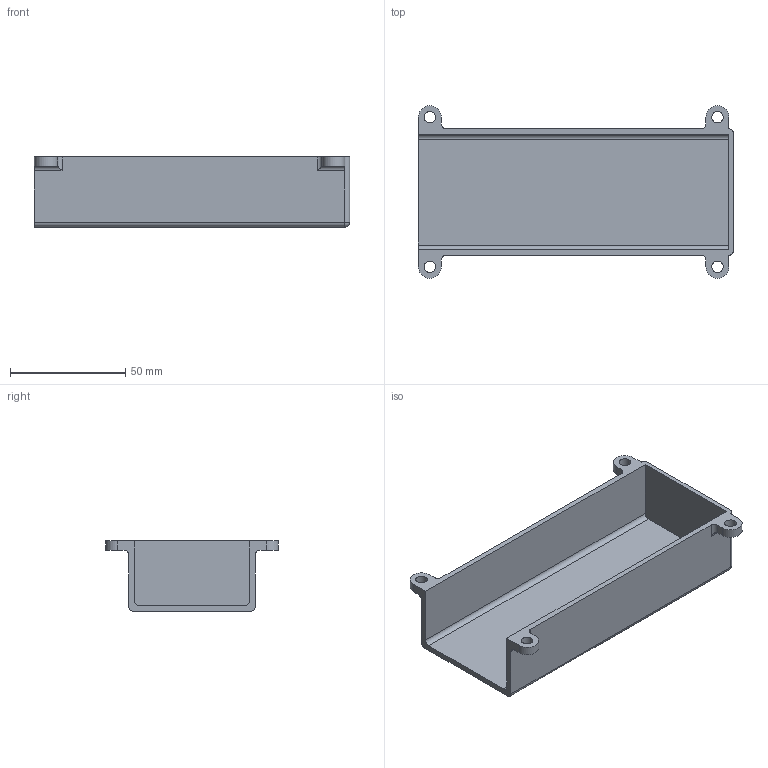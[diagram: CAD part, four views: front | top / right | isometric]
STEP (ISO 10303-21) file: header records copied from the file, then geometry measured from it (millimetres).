
FILE_DESCRIPTION(/* description */ ('STEP AP242 Edition 2','CAx-IF Rec.Pracs.---Representation and Presentation of Product Manufacturing Information (PMI)---4.0---2014-10-13','CAx-IF Rec.Pracs.---3D Tessellated Geometry---0.4---2014-09-14','2;1','CAx-IF Rec.Pracs.---User Defined Attributes---1.5---2016-08-15'),/* implementation_level */ '2;1');
FILE_NAME(/* name */ 'Part Studio 1 - Battery Bay',/* time_stamp */ '2026-04-09T20:19:24Z',/* author */ (''),/* organization */ (''),/* preprocessor_version */ 'ST-DEVELOPER v20',/* originating_system */ 'ONSHAPE BY PTC INC, 1.213',/* authorisation */ ' ');
FILE_SCHEMA (('AP242_MANAGED_MODEL_BASED_3D_ENGINEERING_MIM_LF { 1 0 10303 442 3 1 4 }'));
Length unit declared in the file: metre
Products named in the file (1): Battery Bay
Bounding box: 137 x 75 x 30.5 mm (x, y, z)
Volume: 41882.5 mm3; surface area: 34791.7 mm2
Topology: 1 solids, 1 shells, 45 faces, 119 edges, 74 vertices
Faces by surface type: cylinder 23, plane 20, sphere 2
Full cylindrical faces by diameter (mm): 5 x4
Entity records: 1395 total; most frequent: DIRECTION 247, CARTESIAN_POINT 233, ORIENTED_EDGE 226, EDGE_CURVE 113, AXIS2_PLACEMENT_3D 88, VERTEX_POINT 74, LINE 71, VECTOR 71
